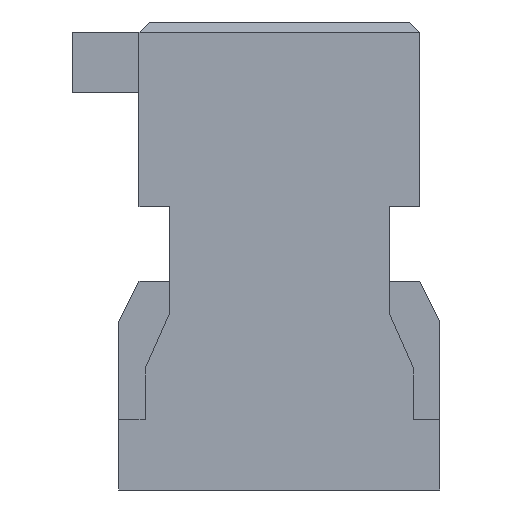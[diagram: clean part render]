
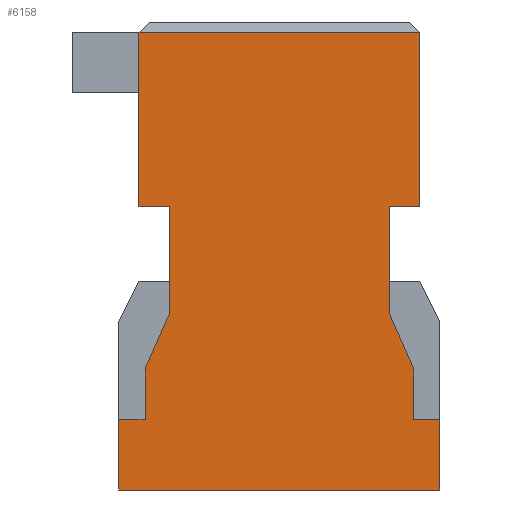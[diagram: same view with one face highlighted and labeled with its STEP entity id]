
A CAD part, left-side view. The second image highlights one B-rep face of the part: STEP entity #6158.
In plain terms, the highlighted planar face has unit normal (-1, 0, 0).
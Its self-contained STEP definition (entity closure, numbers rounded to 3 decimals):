
#217=DIRECTION('',(0.,-1.,0.));
#218=VECTOR('',#217,4.2);
#219=CARTESIAN_POINT('',(-6.1,2.1,-0.15));
#220=LINE('',#219,#218);
#357=DIRECTION('',(0.,0.,-1.));
#358=VECTOR('',#357,2.61);
#359=CARTESIAN_POINT('',(-6.1,2.1,-0.15));
#360=LINE('',#359,#358);
#361=DIRECTION('',(0.,0.,-1.));
#362=VECTOR('',#361,2.61);
#363=CARTESIAN_POINT('',(-6.1,-2.1,-0.15));
#364=LINE('',#363,#362);
#365=DIRECTION('',(0.,-1.,0.));
#366=VECTOR('',#365,0.45);
#367=CARTESIAN_POINT('',(-6.1,-1.65,-2.76));
#368=LINE('',#367,#366);
#369=DIRECTION('',(0.,0.,1.));
#370=VECTOR('',#369,1.62);
#371=CARTESIAN_POINT('',(-6.1,-1.65,-4.38));
#372=LINE('',#371,#370);
#373=DIRECTION('',(0.,0.407,0.914));
#374=VECTOR('',#373,0.885);
#375=CARTESIAN_POINT('',(-6.1,-2.01,-5.189));
#376=LINE('',#375,#374);
#377=DIRECTION('',(0.,0.,1.));
#378=VECTOR('',#377,0.761);
#379=CARTESIAN_POINT('',(-6.1,-2.01,-5.95));
#380=LINE('',#379,#378);
#381=DIRECTION('',(0.,1.,0.));
#382=VECTOR('',#381,0.39);
#383=CARTESIAN_POINT('',(-6.1,-2.4,-5.95));
#384=LINE('',#383,#382);
#385=DIRECTION('',(0.,0.,-1.));
#386=VECTOR('',#385,1.05);
#387=CARTESIAN_POINT('',(-6.1,2.4,-5.95));
#388=LINE('',#387,#386);
#389=DIRECTION('',(0.,-1.,0.));
#390=VECTOR('',#389,0.39);
#391=CARTESIAN_POINT('',(-6.1,2.4,-5.95));
#392=LINE('',#391,#390);
#393=DIRECTION('',(0.,0.,-1.));
#394=VECTOR('',#393,0.761);
#395=CARTESIAN_POINT('',(-6.1,2.01,-5.189));
#396=LINE('',#395,#394);
#397=DIRECTION('',(0.,0.407,-0.914));
#398=VECTOR('',#397,0.885);
#399=CARTESIAN_POINT('',(-6.1,1.65,-4.38));
#400=LINE('',#399,#398);
#401=DIRECTION('',(0.,0.,-1.));
#402=VECTOR('',#401,1.62);
#403=CARTESIAN_POINT('',(-6.1,1.65,-2.76));
#404=LINE('',#403,#402);
#405=DIRECTION('',(0.,-1.,0.));
#406=VECTOR('',#405,0.45);
#407=CARTESIAN_POINT('',(-6.1,2.1,-2.76));
#408=LINE('',#407,#406);
#905=DIRECTION('',(0.,-1.,0.));
#906=VECTOR('',#905,4.8);
#907=CARTESIAN_POINT('',(-6.1,2.4,-7.));
#908=LINE('',#907,#906);
#1029=DIRECTION('',(0.,0.,-1.));
#1030=VECTOR('',#1029,1.05);
#1031=CARTESIAN_POINT('',(-6.1,-2.4,-5.95));
#1032=LINE('',#1031,#1030);
#4393=CARTESIAN_POINT('',(-6.1,2.4,-7.));
#4394=CARTESIAN_POINT('',(-6.1,-2.4,-7.));
#4395=VERTEX_POINT('',#4393);
#4396=VERTEX_POINT('',#4394);
#4401=CARTESIAN_POINT('',(-6.1,2.1,-2.76));
#4402=CARTESIAN_POINT('',(-6.1,1.65,-2.76));
#4403=VERTEX_POINT('',#4401);
#4404=VERTEX_POINT('',#4402);
#4405=CARTESIAN_POINT('',(-6.1,1.65,-4.38));
#4406=VERTEX_POINT('',#4405);
#4407=CARTESIAN_POINT('',(-6.1,2.01,-5.189));
#4408=VERTEX_POINT('',#4407);
#4409=CARTESIAN_POINT('',(-6.1,2.01,-5.95));
#4410=VERTEX_POINT('',#4409);
#4411=CARTESIAN_POINT('',(-6.1,2.4,-5.95));
#4412=VERTEX_POINT('',#4411);
#4413=CARTESIAN_POINT('',(-6.1,-2.4,-5.95));
#4414=CARTESIAN_POINT('',(-6.1,-2.01,-5.95));
#4415=VERTEX_POINT('',#4413);
#4416=VERTEX_POINT('',#4414);
#4417=CARTESIAN_POINT('',(-6.1,-2.01,-5.189));
#4418=VERTEX_POINT('',#4417);
#4419=CARTESIAN_POINT('',(-6.1,-1.65,-4.38));
#4420=VERTEX_POINT('',#4419);
#4421=CARTESIAN_POINT('',(-6.1,-1.65,-2.76));
#4422=VERTEX_POINT('',#4421);
#4423=CARTESIAN_POINT('',(-6.1,-2.1,-2.76));
#4424=VERTEX_POINT('',#4423);
#4701=CARTESIAN_POINT('',(-6.1,-2.1,-0.15));
#4702=VERTEX_POINT('',#4701);
#4703=CARTESIAN_POINT('',(-6.1,2.1,-0.15));
#4704=VERTEX_POINT('',#4703);
#6121=CARTESIAN_POINT('',(-6.1,2.4,0.));
#6122=DIRECTION('',(-1.,0.,0.));
#6123=DIRECTION('',(0.,-1.,0.));
#6124=AXIS2_PLACEMENT_3D('',#6121,#6122,#6123);
#6125=PLANE('',#6124);
#6126=ORIENTED_EDGE('',*,*,#6036,.F.);
#6127=ORIENTED_EDGE('',*,*,#5952,.T.);
#6129=ORIENTED_EDGE('',*,*,#6128,.T.);
#6131=ORIENTED_EDGE('',*,*,#6130,.F.);
#6133=ORIENTED_EDGE('',*,*,#6132,.F.);
#6135=ORIENTED_EDGE('',*,*,#6134,.F.);
#6137=ORIENTED_EDGE('',*,*,#6136,.F.);
#6139=ORIENTED_EDGE('',*,*,#6138,.F.);
#6141=ORIENTED_EDGE('',*,*,#6140,.T.);
#6143=ORIENTED_EDGE('',*,*,#6142,.F.);
#6145=ORIENTED_EDGE('',*,*,#6144,.F.);
#6147=ORIENTED_EDGE('',*,*,#6146,.T.);
#6149=ORIENTED_EDGE('',*,*,#6148,.F.);
#6151=ORIENTED_EDGE('',*,*,#6150,.F.);
#6153=ORIENTED_EDGE('',*,*,#6152,.F.);
#6155=ORIENTED_EDGE('',*,*,#6154,.F.);
#6156=EDGE_LOOP('',(#6126,#6127,#6129,#6131,#6133,#6135,#6137,#6139,#6141,#6143,
#6145,#6147,#6149,#6151,#6153,#6155));
#6157=FACE_OUTER_BOUND('',#6156,.F.);
#6158=ADVANCED_FACE('',(#6157),#6125,.T.);
#5952=EDGE_CURVE('',#4704,#4702,#220,.T.);
#6036=EDGE_CURVE('',#4704,#4403,#360,.T.);
#6128=EDGE_CURVE('',#4702,#4424,#364,.T.);
#6130=EDGE_CURVE('',#4422,#4424,#368,.T.);
#6132=EDGE_CURVE('',#4420,#4422,#372,.T.);
#6134=EDGE_CURVE('',#4418,#4420,#376,.T.);
#6136=EDGE_CURVE('',#4416,#4418,#380,.T.);
#6138=EDGE_CURVE('',#4415,#4416,#384,.T.);
#6140=EDGE_CURVE('',#4415,#4396,#1032,.T.);
#6142=EDGE_CURVE('',#4395,#4396,#908,.T.);
#6144=EDGE_CURVE('',#4412,#4395,#388,.T.);
#6146=EDGE_CURVE('',#4412,#4410,#392,.T.);
#6148=EDGE_CURVE('',#4408,#4410,#396,.T.);
#6150=EDGE_CURVE('',#4406,#4408,#400,.T.);
#6152=EDGE_CURVE('',#4404,#4406,#404,.T.);
#6154=EDGE_CURVE('',#4403,#4404,#408,.T.);
